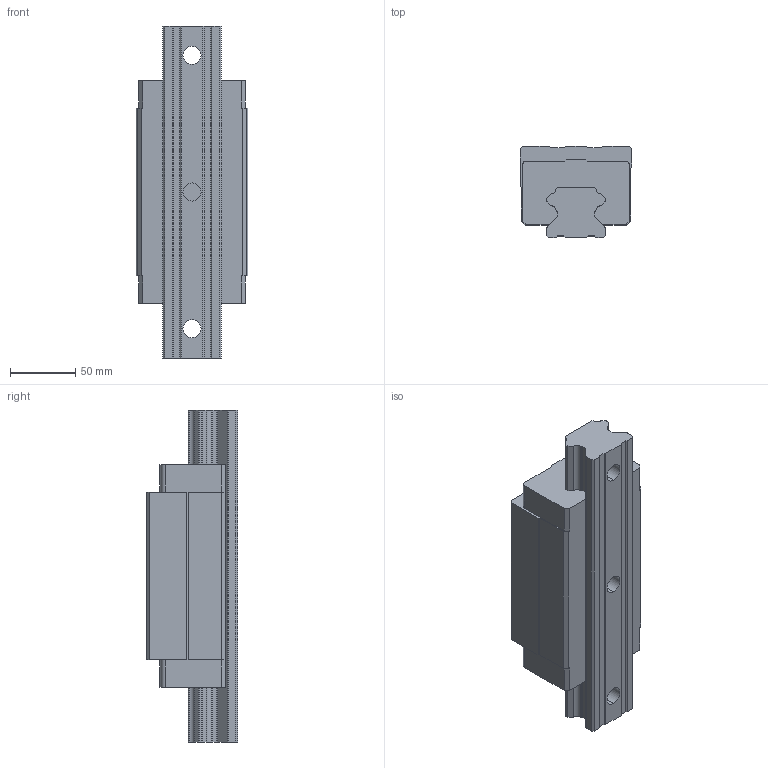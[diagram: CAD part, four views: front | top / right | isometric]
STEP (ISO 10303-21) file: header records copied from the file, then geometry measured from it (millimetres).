
FILE_DESCRIPTION (( 'STEP AP214' ), '1' );
FILE_NAME ('2.1028 Lineaarikelkka HGH45HA.STEP', '2025-09-19T06:29:30', ( '' ), ( '' ), 'SwSTEP 2.0', 'SolidWorks 2025', '' );
FILE_SCHEMA (( 'AUTOMOTIVE_DESIGN' ));
Length unit declared in the file: millimetre
Products named in the file (1): 2.1028 Lineaarikelkka HGH45HA
Bounding box: 86 x 70 x 255 mm (x, y, z)
Volume: 985070.9 mm3; surface area: 121006.7 mm2
Topology: 2 solids, 2 shells, 145 faces, 402 edges, 268 vertices
Faces by surface type: plane 95, cylinder 50
Entity records: 6275 total; most frequent: CARTESIAN_POINT 816, ORIENTED_EDGE 804, DIRECTION 794, EDGE_CURVE 402, LINE 302, VECTOR 302, VERTEX_POINT 268, AXIS2_PLACEMENT_3D 246
